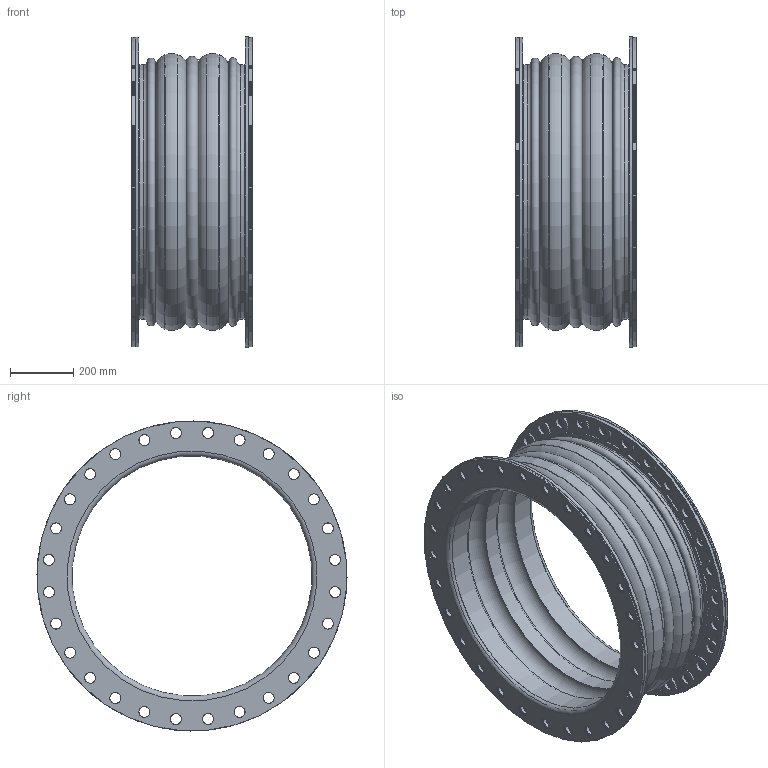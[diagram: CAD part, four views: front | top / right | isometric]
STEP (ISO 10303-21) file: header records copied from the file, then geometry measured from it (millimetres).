
FILE_DESCRIPTION((''),'2;1');
FILE_NAME('C:\2011_Work\Designs\Mercer\Stock Joints\450 Style\452\STEP\Style452 30x15.stp','2013-07-26T17:32:34',('mquog'),(''),'Autodesk Inventor 2011','Autodesk Inventor 2011','');
FILE_SCHEMA(('AUTOMOTIVE_DESIGN { 1 0 10303 214 1 1 1 1 }'));
Length unit declared in the file: inch
Products named in the file (4): Style452 30x15; 30DI450BUR150; 30_MBR; 452 30x15
Assembly tree (4 placements, depth 2):
  Style452 30x15
    30DI450BUR150  x2
    30_MBR
    452 30x15
Bounding box: 381 x 984.17 x 984.17 mm (x, y, z)
Volume: 37416996.9 mm3; surface area: 25677293.4 mm2
Topology: 36 solids, 36 shells, 1244 faces, 3262 edges, 2142 vertices
Faces by surface type: cylinder 1011, plane 124, torus 103, cone 6
Full cylindrical faces by diameter (mm): 34.925 x393, 762 x3, 768.35 x6, 774.7 x12, 778.561 x6, 782.422 x6, 785.597 x3, 793.75 x6, 977.9 x12, 984.25 x4
Entity records: 27390 total; most frequent: DIRECTION 5120, CARTESIAN_POINT 4214, ORIENTED_EDGE 3590, AXIS2_PLACEMENT_3D 2420, EDGE_LOOP 2243, EDGE_CURVE 1795, CIRCLE 1515, VERTEX_POINT 1514
